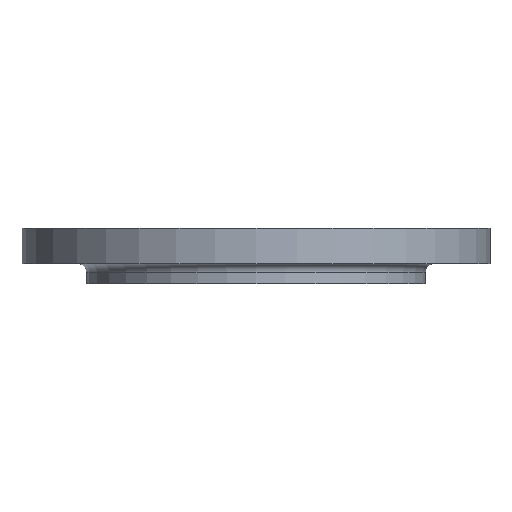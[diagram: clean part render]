
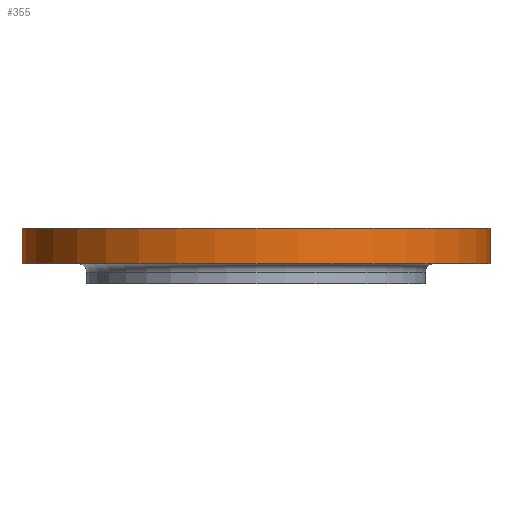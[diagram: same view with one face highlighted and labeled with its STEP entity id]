
A CAD part, front view. The second image highlights one B-rep face of the part: STEP entity #355.
In plain terms, the highlighted cylindrical face has radius 330 mm (diameter 660 mm), a partial arc.
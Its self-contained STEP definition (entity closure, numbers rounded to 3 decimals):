
#4 = CARTESIAN_POINT ( 'NONE',  ( 330., 0., -50. ) ) ;
#9 = DIRECTION ( 'NONE',  ( 0., 0., 1. ) ) ;
#15 = CARTESIAN_POINT ( 'NONE',  ( -330., 0., -145. ) ) ;
#17 = LINE ( 'NONE', #15, #1413 ) ;
#40 = CARTESIAN_POINT ( 'NONE',  ( 330., 0., 0. ) ) ;
#50 = EDGE_CURVE ( 'NONE', #713, #1050, #1000, .T. ) ;
#77 = DIRECTION ( 'NONE',  ( 1., 0., 0. ) ) ;
#78 = DIRECTION ( 'NONE',  ( 0., 0., 1. ) ) ;
#81 = CARTESIAN_POINT ( 'NONE',  ( 0., 0., 0. ) ) ;
#107 = DIRECTION ( 'NONE',  ( 1., 0., 0. ) ) ;
#108 = DIRECTION ( 'NONE',  ( 0., 0., 1. ) ) ;
#110 = CARTESIAN_POINT ( 'NONE',  ( 0., 0., -50. ) ) ;
#154 = VECTOR ( 'NONE', #432, 1000. ) ;
#355 = ADVANCED_FACE ( 'NONE', ( #607 ), #606, .T. ) ;
#432 = DIRECTION ( 'NONE',  ( 0., 0., 1. ) ) ;
#434 = CARTESIAN_POINT ( 'NONE',  ( 330., 0., -145. ) ) ;
#435 = LINE ( 'NONE', #434, #154 ) ;
#459 = CARTESIAN_POINT ( 'NONE',  ( -330., 0., -50. ) ) ;
#603 = DIRECTION ( 'NONE',  ( 1., 0., 0. ) ) ;
#604 = DIRECTION ( 'NONE',  ( 0., 0., 1. ) ) ;
#605 = CARTESIAN_POINT ( 'NONE',  ( 0., 0., -145. ) ) ;
#606 = CYLINDRICAL_SURFACE ( 'NONE', #960, 330. ) ;
#607 = FACE_OUTER_BOUND ( 'NONE', #852, .T. ) ;
#713 = VERTEX_POINT ( 'NONE', #459 ) ;
#736 = EDGE_CURVE ( 'NONE', #1050, #1031, #435, .T. ) ;
#852 = EDGE_LOOP ( 'NONE', ( #1166, #1169, #1171, #1173 ) ) ;
#957 = CARTESIAN_POINT ( 'NONE',  ( -330., 0., 0. ) ) ;
#960 = AXIS2_PLACEMENT_3D ( 'NONE', #605, #604, #603 ) ;
#997 = EDGE_CURVE ( 'NONE', #1257, #1031, #1373, .T. ) ;
#1000 = CIRCLE ( 'NONE', #1001, 330. ) ;
#1001 = AXIS2_PLACEMENT_3D ( 'NONE', #110, #108, #107 ) ;
#1031 = VERTEX_POINT ( 'NONE', #40 ) ;
#1045 = EDGE_CURVE ( 'NONE', #713, #1257, #17, .T. ) ;
#1050 = VERTEX_POINT ( 'NONE', #4 ) ;
#1166 = ORIENTED_EDGE ( 'NONE', *, *, #1045, .F. ) ;
#1169 = ORIENTED_EDGE ( 'NONE', *, *, #50, .T. ) ;
#1171 = ORIENTED_EDGE ( 'NONE', *, *, #736, .T. ) ;
#1173 = ORIENTED_EDGE ( 'NONE', *, *, #997, .F. ) ;
#1257 = VERTEX_POINT ( 'NONE', #957 ) ;
#1373 = CIRCLE ( 'NONE', #1375, 330. ) ;
#1375 = AXIS2_PLACEMENT_3D ( 'NONE', #81, #78, #77 ) ;
#1413 = VECTOR ( 'NONE', #9, 1000. ) ;
